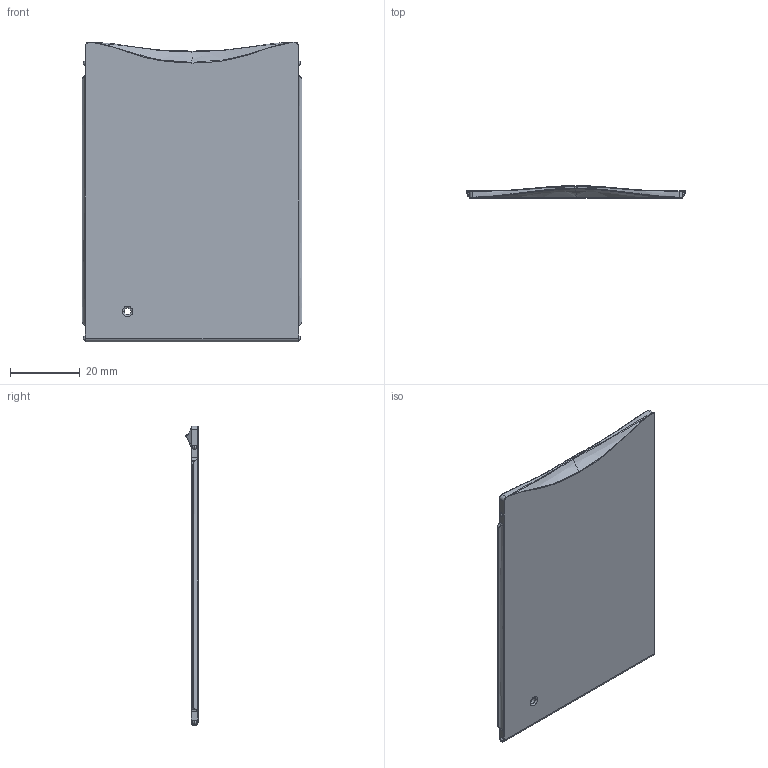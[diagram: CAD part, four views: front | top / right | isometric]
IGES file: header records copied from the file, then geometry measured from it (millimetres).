
Start section:  PTC IGES file: jc_lcd_protector_prt.igs
Global section: file name: jc_lcd_protector_prt.igs; native system: Pro/ENGINEER by Parametric Technology Corporation; preprocessor: 2000030; author: ECaille; organization: Unknown; date: 000803.092055; units: millimetre
Bounding box: 63.17 x 3.49 x 85.99 mm (x, y, z)
Surface area: 11068.2 mm2 (no closed solid volume)
Topology: 0 solids, 0 shells, 113 faces, 810 edges, 1088 vertices
Faces by surface type: revolution 59, bspline 52, extrusion 2
